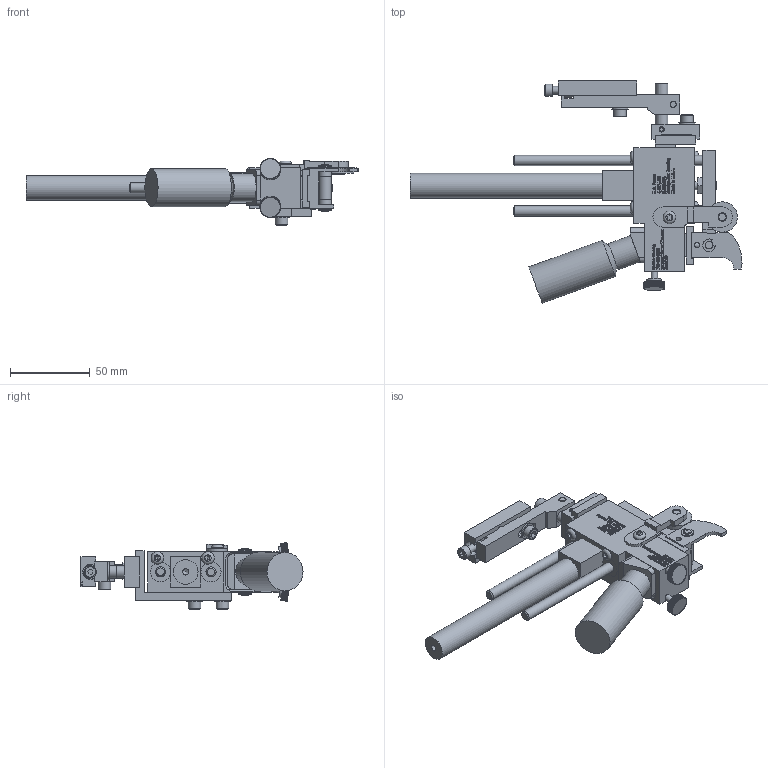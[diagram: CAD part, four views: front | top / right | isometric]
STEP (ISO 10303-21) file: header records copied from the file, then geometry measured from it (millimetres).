
FILE_DESCRIPTION((''),'2;1');
FILE_NAME('C:\Documents and Settings\Ron\My Documents\Inventor\Sprinter Drawing\Machines in Inventor\Model 66\Type\Ext Str\E1\Brkt\Ret\Model 66 ES1 type Ret w brkt mod 2012.stp','2012-02-29T08:19:05',('Ron'),(''),'Autodesk Inventor 2011','Autodesk Inventor 2011','');
FILE_SCHEMA(('AUTOMOTIVE_DESIGN { 1 0 10303 214 1 1 1 1 }'));
Length unit declared in the file: inch
Products named in the file (40): Model 66 ES1 type Ret w brkt mod 2012; 66 Frame Body Assy Std w brkt; 66 Frame Body; Hexagon Socket Button Head Cap Screw - Inch 8 - 32 x 1/4; Hexagon Socket Head Cap Screw - Inch No. 8 - 32 UNC - 1 1/2; 66 Linear Bearing; 66 Ink; 66 INK BOTTLE; 66 Ink Pad; 66 Wheel Bracket; 8-32x0.25 Hexagon Socket Button Head Cap Screw ANSI/ASME B18.3; 44 Cam Wheel; 44 Wheel Retainer; 10 Ink Resevior Lock Screw; Model 66 Bracket; Model 66 RPB; rpb4; rpb3; rpb-1; rpb2; No. 10-24x0.88 Hexagon socket head cap screw ANSI/ASME B18.3; Type B - Plain Washer (Inch) No. 10 - narrow - Type B; 66 Machine Mounting Pivot Bracket; Pin - Hardened Ground Machine Dowel (Inch) 1/8 x 3/8; Rod Carrier Retracted E1; 66 Rod Carrier; Type A - Hexagon Socket Set Screw - Cup Point - Inch 8-32 UNC x 0.32; 66 PIVOT SHAFT; 66 PIVOT SHAFT LOCKING RING; 23 66 invert block; 66 Marking Head Plate; AS 1112 (4)  - Metric M6; Hexagon Socket Set Screw - Flat Point - Inch 6-32 UNC x 0.45; Part # 27 - Model 66 Rubber Cushion Sheet; Part # 28 - Model 66 Rubber Type Holder; 19 Rod Carrier Set Screws; 66 Spring; Model 66, E1 .25 x 5; E1 Retracted; 10-32 PORTS DECAL
Assembly tree (56 placements, depth 5):
  Model 66 ES1 type Ret w brkt mod 2012
    66 Frame Body Assy Std w brkt
      66 Frame Body
      Hexagon Socket Button Head Cap Screw - Inch 8 - 32 x 1/4  x4
      Hexagon Socket Head Cap Screw - Inch No. 8 - 32 UNC - 1 1/2  x2
      66 Linear Bearing  x2
      66 Ink
      66 INK BOTTLE
      66 Ink Pad
      66 Wheel Bracket
      8-32x0.25 Hexagon Socket Button Head Cap Screw ANSI/ASME B18.3
      44 Cam Wheel
      44 Wheel Retainer
      10 Ink Resevior Lock Screw  x2
      Model 66 Bracket
        Model 66 RPB
          rpb4
          rpb3
          rpb-1
          rpb2
          No. 10-24x0.88 Hexagon socket head cap screw ANSI/ASME B18.3  x5
          Type B - Plain Washer (Inch) No. 10 - narrow - Type B  x4
          66 Machine Mounting Pivot Bracket
          Pin - Hardened Ground Machine Dowel (Inch) 1/8 x 3/8  x2
    Rod Carrier Retracted E1
      66 Rod Carrier
      Type A - Hexagon Socket Set Screw - Cup Point - Inch 8-32 UNC x 0.32
      66 PIVOT SHAFT
      66 PIVOT SHAFT LOCKING RING  x2
      23 66 invert block
      66 Marking Head Plate
      AS 1112 (4)  - Metric M6
      Hexagon Socket Set Screw - Flat Point - Inch 6-32 UNC x 0.45
      Part # 27 - Model 66 Rubber Cushion Sheet
      Part # 28 - Model 66 Rubber Type Holder
      19 Rod Carrier Set Screws  x2
      66 Spring
      Model 66, E1 .25 x 5  x2
    E1 Retracted
    10-32 PORTS DECAL
Bounding box: 208.61 x 139.56 x 42.07 mm (x, y, z)
Volume: 171709.4 mm3; surface area: 86849.2 mm2
Topology: 425 solids, 425 shells, 6228 faces, 15235 edges, 9406 vertices
Faces by surface type: plane 4341, bspline 1251, cylinder 534, cone 79, torus 23
Full cylindrical faces by diameter (mm): 1.575 x1, 2.54 x2, 3.175 x4, 3.2 x1, 3.302 x12, 3.505 x1, 3.658 x1, 3.683 x2, 3.962 x12, 4.064 x2, 4.166 x10, 4.318 x2, 4.699 x3, 4.75 x3, 4.775 x2, 4.826 x8, 4.864 x2, 4.917 x1, 5.156 x7, 5.182 x1, 5.359 x1, 5.556 x1, 6.325 x2, 6.35 x7, 6.426 x1, 6.604 x1, 6.858 x2, 7.62 x2, 7.925 x12, 7.938 x1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
Entity records: 147379 total; most frequent: CARTESIAN_POINT 43618, ORIENTED_EDGE 22934, DIRECTION 16543, EDGE_CURVE 11467, VECTOR 8205, LINE 8205, VERTEX_POINT 7343, EDGE_LOOP 5122
